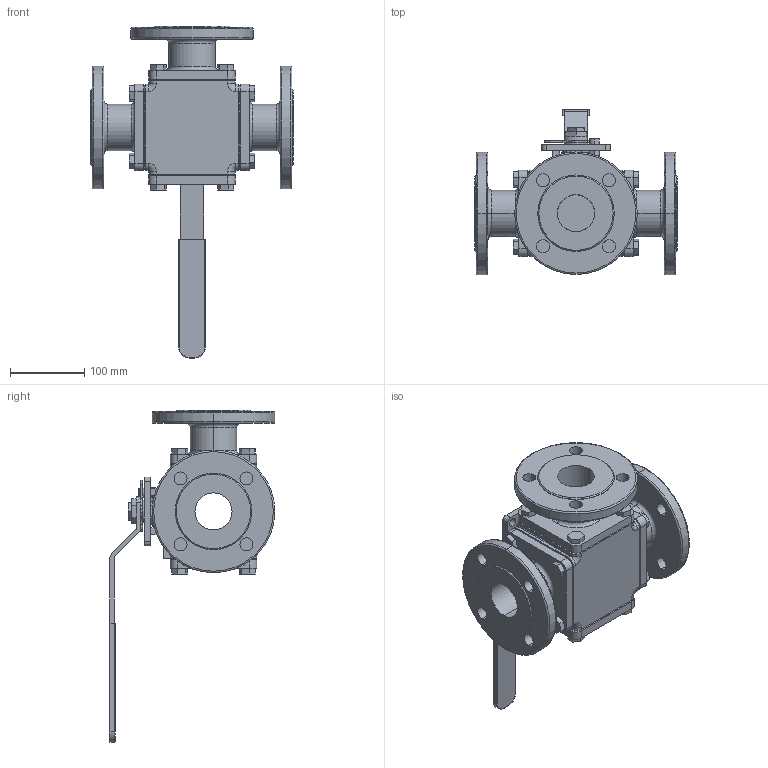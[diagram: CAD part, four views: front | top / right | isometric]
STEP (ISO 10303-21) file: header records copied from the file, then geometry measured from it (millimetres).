
FILE_DESCRIPTION (( 'STEP AP214' ), '1' );
FILE_NAME ('S316D DN50 HB.step', '2011-04-20T13:25:29', ( '' ), ( '' ), 'SwSTEP 2.0', 'SolidWorks 2011', '' );
FILE_SCHEMA (( 'AUTOMOTIVE_DESIGN' ));
Length unit declared in the file: millimetre
Products named in the file (7): Hex Nut Style 1 GradeAB_DIN_Hexagon Nut ISO 4032 - M8 - D - N; Socket Head Cap Screw_DIN_DIN 912 M8x1 x 20 --- 20N; S316D Flange end DN50; S316D Blindflens DN50; S316D Hendel DN50; S316D KK DN50 PN16; S316D DN50 HB
Assembly tree (8 placements, depth 2):
  S316D DN50 HB
    S316D Flange end DN50  x3
    S316D Hendel DN50
    S316D Blindflens DN50
    S316D KK DN50 PN16
    Hex Nut Style 1 GradeAB_DIN_Hexagon Nut ISO 4032 - M8 - D - N
    Socket Head Cap Screw_DIN_DIN 912 M8x1 x 20 --- 20N
Bounding box: 273 x 222.86 x 446.86 mm (x, y, z)
Volume: 3763037 mm3; surface area: 534154.8 mm2
Topology: 8 solids, 9 shells, 607 faces, 1512 edges, 963 vertices
Faces by surface type: plane 334, cylinder 191, cone 42, torus 40
Entity records: 14363 total; most frequent: CARTESIAN_POINT 2527, DIRECTION 2437, ORIENTED_EDGE 2300, EDGE_CURVE 1150, AXIS2_PLACEMENT_3D 857, VERTEX_POINT 731, LINE 723, VECTOR 723
